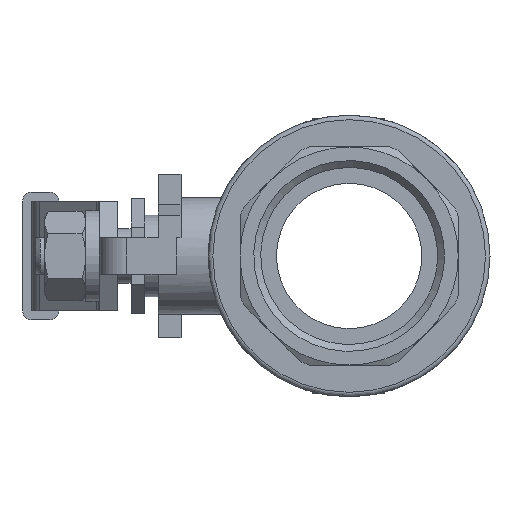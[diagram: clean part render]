
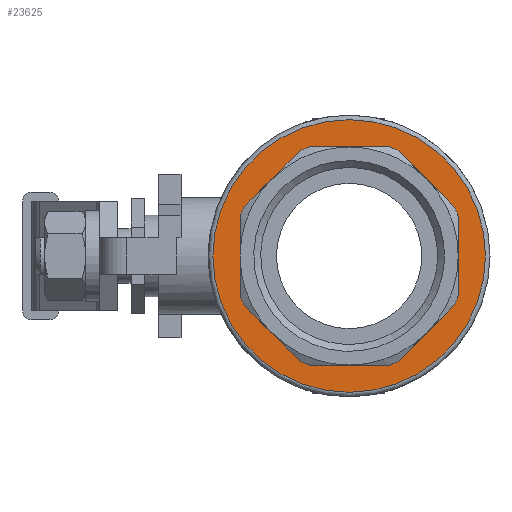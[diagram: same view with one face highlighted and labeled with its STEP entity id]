
A CAD part, left-side view. The second image highlights one B-rep face of the part: STEP entity #23625.
In plain terms, the highlighted planar face has unit normal (-1, 0, 0).
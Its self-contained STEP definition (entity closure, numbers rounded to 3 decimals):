
#194=FACE_BOUND('',#3800,.T.);
#1311=PLANE('',#24884);
#2540=FACE_OUTER_BOUND('',#3799,.T.);
#3799=EDGE_LOOP('',(#20869));
#3800=EDGE_LOOP('',(#20870,#20871,#20872,#20873,#20874,#20875,#20876,#20877,
#20878,#20879,#20880,#20881,#20882,#20883,#20884,#20885));
#6525=LINE('',#38151,#9257);
#6526=LINE('',#38155,#9258);
#6527=LINE('',#38159,#9259);
#6528=LINE('',#38163,#9260);
#6529=LINE('',#38167,#9261);
#6530=LINE('',#38171,#9262);
#6531=LINE('',#38175,#9263);
#6532=LINE('',#38178,#9264);
#9257=VECTOR('',#29993,10.);
#9258=VECTOR('',#29996,10.);
#9259=VECTOR('',#29999,10.);
#9260=VECTOR('',#30002,10.);
#9261=VECTOR('',#30005,10.);
#9262=VECTOR('',#30008,10.);
#9263=VECTOR('',#30011,10.);
#9264=VECTOR('',#30014,10.);
#9498=CIRCLE('',#24882,30.);
#9500=CIRCLE('',#24885,25.559);
#9501=CIRCLE('',#24886,25.559);
#9502=CIRCLE('',#24887,25.559);
#9503=CIRCLE('',#24888,25.559);
#9504=CIRCLE('',#24889,25.559);
#9505=CIRCLE('',#24890,25.559);
#9506=CIRCLE('',#24891,25.559);
#9507=CIRCLE('',#24892,25.559);
#11561=VERTEX_POINT('',#38142);
#11562=VERTEX_POINT('',#38147);
#11563=VERTEX_POINT('',#38148);
#11564=VERTEX_POINT('',#38150);
#11565=VERTEX_POINT('',#38152);
#11566=VERTEX_POINT('',#38154);
#11567=VERTEX_POINT('',#38156);
#11568=VERTEX_POINT('',#38158);
#11569=VERTEX_POINT('',#38160);
#11570=VERTEX_POINT('',#38162);
#11571=VERTEX_POINT('',#38164);
#11572=VERTEX_POINT('',#38166);
#11573=VERTEX_POINT('',#38168);
#11574=VERTEX_POINT('',#38170);
#11575=VERTEX_POINT('',#38172);
#11576=VERTEX_POINT('',#38174);
#11577=VERTEX_POINT('',#38176);
#14684=EDGE_CURVE('',#11561,#11561,#9498,.T.);
#14686=EDGE_CURVE('',#11562,#11563,#9500,.T.);
#14687=EDGE_CURVE('',#11564,#11562,#6525,.T.);
#14688=EDGE_CURVE('',#11565,#11564,#9501,.T.);
#14689=EDGE_CURVE('',#11566,#11565,#6526,.T.);
#14690=EDGE_CURVE('',#11567,#11566,#9502,.T.);
#14691=EDGE_CURVE('',#11568,#11567,#6527,.T.);
#14692=EDGE_CURVE('',#11569,#11568,#9503,.T.);
#14693=EDGE_CURVE('',#11570,#11569,#6528,.T.);
#14694=EDGE_CURVE('',#11571,#11570,#9504,.T.);
#14695=EDGE_CURVE('',#11572,#11571,#6529,.T.);
#14696=EDGE_CURVE('',#11573,#11572,#9505,.T.);
#14697=EDGE_CURVE('',#11574,#11573,#6530,.T.);
#14698=EDGE_CURVE('',#11575,#11574,#9506,.T.);
#14699=EDGE_CURVE('',#11576,#11575,#6531,.T.);
#14700=EDGE_CURVE('',#11577,#11576,#9507,.T.);
#14701=EDGE_CURVE('',#11563,#11577,#6532,.T.);
#20869=ORIENTED_EDGE('',*,*,#14684,.F.);
#20870=ORIENTED_EDGE('',*,*,#14686,.F.);
#20871=ORIENTED_EDGE('',*,*,#14687,.F.);
#20872=ORIENTED_EDGE('',*,*,#14688,.F.);
#20873=ORIENTED_EDGE('',*,*,#14689,.F.);
#20874=ORIENTED_EDGE('',*,*,#14690,.F.);
#20875=ORIENTED_EDGE('',*,*,#14691,.F.);
#20876=ORIENTED_EDGE('',*,*,#14692,.F.);
#20877=ORIENTED_EDGE('',*,*,#14693,.F.);
#20878=ORIENTED_EDGE('',*,*,#14694,.F.);
#20879=ORIENTED_EDGE('',*,*,#14695,.F.);
#20880=ORIENTED_EDGE('',*,*,#14696,.F.);
#20881=ORIENTED_EDGE('',*,*,#14697,.F.);
#20882=ORIENTED_EDGE('',*,*,#14698,.F.);
#20883=ORIENTED_EDGE('',*,*,#14699,.F.);
#20884=ORIENTED_EDGE('',*,*,#14700,.F.);
#20885=ORIENTED_EDGE('',*,*,#14701,.F.);
#23625=ADVANCED_FACE('',(#2540,#194),#1311,.T.);
#24882=AXIS2_PLACEMENT_3D('',#38144,#29985,#29986);
#24884=AXIS2_PLACEMENT_3D('',#38146,#29989,#29990);
#24885=AXIS2_PLACEMENT_3D('',#38149,#29991,#29992);
#24886=AXIS2_PLACEMENT_3D('',#38153,#29994,#29995);
#24887=AXIS2_PLACEMENT_3D('',#38157,#29997,#29998);
#24888=AXIS2_PLACEMENT_3D('',#38161,#30000,#30001);
#24889=AXIS2_PLACEMENT_3D('',#38165,#30003,#30004);
#24890=AXIS2_PLACEMENT_3D('',#38169,#30006,#30007);
#24891=AXIS2_PLACEMENT_3D('',#38173,#30009,#30010);
#24892=AXIS2_PLACEMENT_3D('',#38177,#30012,#30013);
#29985=DIRECTION('center_axis',(1.,0.,0.));
#29986=DIRECTION('ref_axis',(0.,-1.,0.));
#29989=DIRECTION('center_axis',(-1.,0.,0.));
#29990=DIRECTION('ref_axis',(0.,0.,1.));
#29991=DIRECTION('center_axis',(-1.,0.,0.));
#29992=DIRECTION('ref_axis',(0.,0.,1.));
#29993=DIRECTION('',(0.,0.,-1.));
#29994=DIRECTION('center_axis',(-1.,0.,0.));
#29995=DIRECTION('ref_axis',(0.,0.,1.));
#29996=DIRECTION('',(0.,0.707,-0.707));
#29997=DIRECTION('center_axis',(-1.,0.,0.));
#29998=DIRECTION('ref_axis',(0.,0.,1.));
#29999=DIRECTION('',(0.,1.,0.));
#30000=DIRECTION('center_axis',(-1.,0.,0.));
#30001=DIRECTION('ref_axis',(0.,0.,1.));
#30002=DIRECTION('',(0.,0.707,0.707));
#30003=DIRECTION('center_axis',(-1.,0.,0.));
#30004=DIRECTION('ref_axis',(0.,0.,1.));
#30005=DIRECTION('',(0.,0.,1.));
#30006=DIRECTION('center_axis',(-1.,0.,0.));
#30007=DIRECTION('ref_axis',(0.,0.,1.));
#30008=DIRECTION('',(0.,-0.707,0.707));
#30009=DIRECTION('center_axis',(-1.,0.,0.));
#30010=DIRECTION('ref_axis',(0.,0.,1.));
#30011=DIRECTION('',(0.,-1.,0.));
#30012=DIRECTION('center_axis',(-1.,0.,0.));
#30013=DIRECTION('ref_axis',(0.,0.,1.));
#30014=DIRECTION('',(0.,-0.707,-0.707));
#38142=CARTESIAN_POINT('',(-80.286,-18.276,30.));
#38144=CARTESIAN_POINT('Origin',(-80.286,-18.276,0.));
#38146=CARTESIAN_POINT('Origin',(-80.286,10.474,0.));
#38147=CARTESIAN_POINT('',(-80.286,5.724,-8.789));
#38148=CARTESIAN_POINT('',(-80.286,4.91,-10.756));
#38149=CARTESIAN_POINT('Origin',(-80.286,-18.276,0.));
#38150=CARTESIAN_POINT('',(-80.286,5.724,8.789));
#38151=CARTESIAN_POINT('',(-80.286,5.724,4.395));
#38152=CARTESIAN_POINT('',(-80.286,4.91,10.756));
#38153=CARTESIAN_POINT('Origin',(-80.286,-18.276,0.));
#38154=CARTESIAN_POINT('',(-80.286,-7.52,23.185));
#38155=CARTESIAN_POINT('',(-80.286,-4.413,20.078));
#38156=CARTESIAN_POINT('',(-80.286,-9.487,24.));
#38157=CARTESIAN_POINT('Origin',(-80.286,-18.276,0.));
#38158=CARTESIAN_POINT('',(-80.286,-27.065,24.));
#38159=CARTESIAN_POINT('',(-80.286,-22.67,24.));
#38160=CARTESIAN_POINT('',(-80.286,-29.031,23.185));
#38161=CARTESIAN_POINT('Origin',(-80.286,-18.276,0.));
#38162=CARTESIAN_POINT('',(-80.286,-41.461,10.756));
#38163=CARTESIAN_POINT('',(-80.286,-38.354,13.863));
#38164=CARTESIAN_POINT('',(-80.286,-42.276,8.789));
#38165=CARTESIAN_POINT('Origin',(-80.286,-18.276,0.));
#38166=CARTESIAN_POINT('',(-80.286,-42.276,-8.789));
#38167=CARTESIAN_POINT('',(-80.286,-42.276,4.395));
#38168=CARTESIAN_POINT('',(-80.286,-41.461,-10.756));
#38169=CARTESIAN_POINT('Origin',(-80.286,-18.276,0.));
#38170=CARTESIAN_POINT('',(-80.286,-29.031,-23.185));
#38171=CARTESIAN_POINT('',(-80.286,-32.139,-20.078));
#38172=CARTESIAN_POINT('',(-80.286,-27.065,-24.));
#38173=CARTESIAN_POINT('Origin',(-80.286,-18.276,0.));
#38174=CARTESIAN_POINT('',(-80.286,-9.487,-24.));
#38175=CARTESIAN_POINT('',(-80.286,-13.881,-24.));
#38176=CARTESIAN_POINT('',(-80.286,-7.52,-23.185));
#38177=CARTESIAN_POINT('Origin',(-80.286,-18.276,0.));
#38178=CARTESIAN_POINT('',(-80.286,1.802,-13.863));
